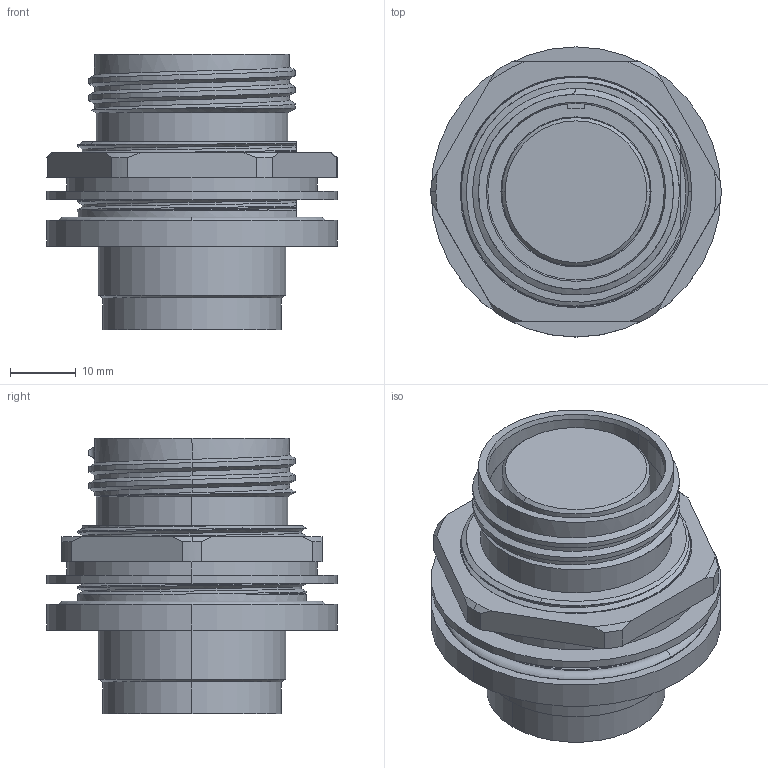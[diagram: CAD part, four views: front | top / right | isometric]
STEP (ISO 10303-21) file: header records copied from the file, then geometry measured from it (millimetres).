
FILE_DESCRIPTION (( 'STEP AP214' ), '1' );
FILE_NAME ('QLINK-RJTX-19XX-S00.STEP', '2025-09-30T21:44:02', ( '' ), ( '' ), 'SwSTEP 2.0', 'SolidWorks 2024', '' );
FILE_SCHEMA (( 'AUTOMOTIVE_DESIGN' ));
Length unit declared in the file: inch
Products named in the file (1): QLINK-RJTX-19XX-S00
Bounding box: 44.2 x 44.2 x 41.91 mm (x, y, z)
Volume: 31392.3 mm3; surface area: 15858.2 mm2
Topology: 3 solids, 3 shells, 179 faces, 470 edges, 305 vertices
Faces by surface type: cylinder 74, plane 35, bspline 30, cone 26, torus 14
Entity records: 14542 total; most frequent: CARTESIAN_POINT 10459, ORIENTED_EDGE 940, DIRECTION 758, EDGE_CURVE 470, AXIS2_PLACEMENT_3D 312, VERTEX_POINT 305, EDGE_LOOP 197, ADVANCED_FACE 179
